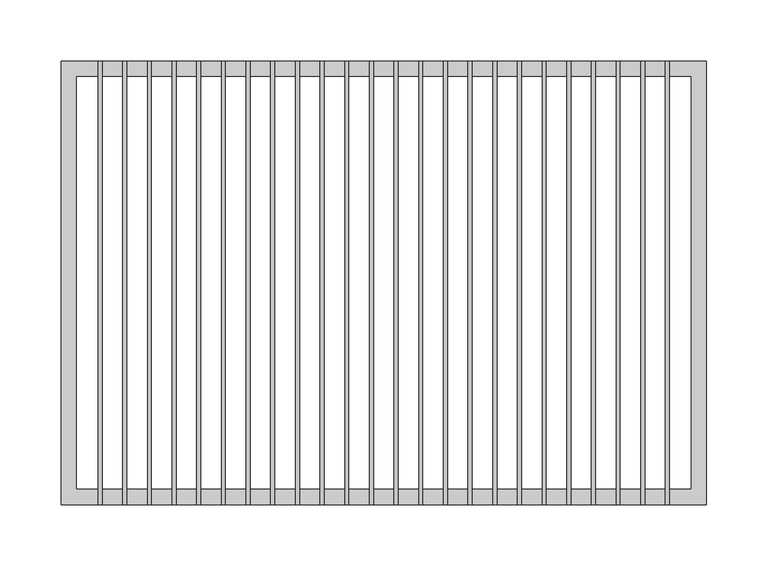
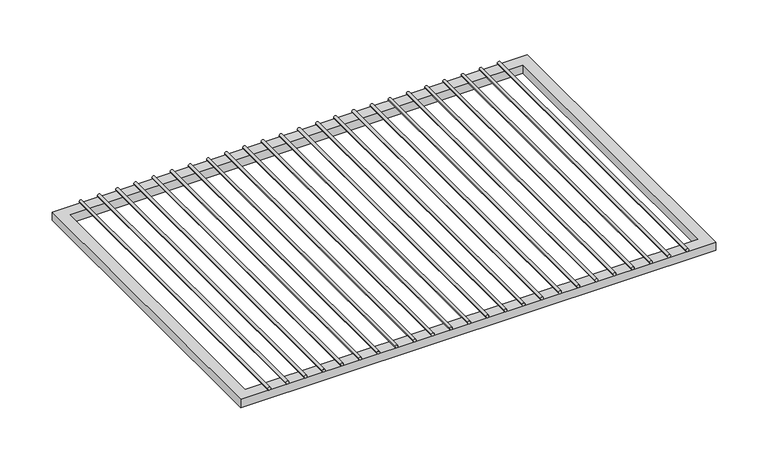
"""IFC4 building model written with IfcOpenShell, lengths in millimetres: furniture geometry, HermanMiller_CoStruc_CO252_CWireShelf : 14D x 20W."""

from ifc_helpers import new_model, si_unit, point, frame, frame_2d, origin, place, context, project, spatial, polyline, circle_curve, trimmed, segment, composite_curve, outline, extrude, source, transform, mapped, element, save


def furniture_6242b930(model_context):
    return source(origin(), model_context, "Body", "SweptSolid", [
        extrude(outline(composite_curve([segment(trimmed(circle_curve(frame_2d((483.39502, -211.6206522)), 1.5875), [point((483.39502, -213.2081522))], [point((483.39502, -210.0331522))], False, "CARTESIAN"), True, "CONTINUOUS"), segment(trimmed(circle_curve(frame_2d((483.39502, -211.6206522)), 1.5875), [point((483.39502, -210.0331522))], [point((483.39502, -213.2081522))], False, "CARTESIAN"), True, "CONTINUOUS")], self_intersect=False)), frame((0.0, -180.975, 0.0), z_axis=(0.0, 1.0, 0.0), x_axis=(0.0, 0.0, 1.0)), (0.0, 0.0, 1.0), 361.95),
        extrude(outline(composite_curve([segment(trimmed(circle_curve(frame_2d((483.39502, -191.4663043)), 1.5875), [point((483.39502, -193.0538043))], [point((483.39502, -189.8788043))], False, "CARTESIAN"), True, "CONTINUOUS"), segment(trimmed(circle_curve(frame_2d((483.39502, -191.4663043)), 1.5875), [point((483.39502, -189.8788043))], [point((483.39502, -193.0538043))], False, "CARTESIAN"), True, "CONTINUOUS")], self_intersect=False)), frame((0.0, -180.975, 0.0), z_axis=(0.0, 1.0, 0.0), x_axis=(0.0, 0.0, 1.0)), (0.0, 0.0, 1.0), 361.95),
        extrude(outline(composite_curve([segment(trimmed(circle_curve(frame_2d((483.39502, -171.3119565)), 1.5875), [point((483.39502, -172.8994565))], [point((483.39502, -169.7244565))], False, "CARTESIAN"), True, "CONTINUOUS"), segment(trimmed(circle_curve(frame_2d((483.39502, -171.3119565)), 1.5875), [point((483.39502, -169.7244565))], [point((483.39502, -172.8994565))], False, "CARTESIAN"), True, "CONTINUOUS")], self_intersect=False)), frame((0.0, -180.975, 0.0), z_axis=(0.0, 1.0, 0.0), x_axis=(0.0, 0.0, 1.0)), (0.0, 0.0, 1.0), 361.95),
        extrude(outline(composite_curve([segment(trimmed(circle_curve(frame_2d((483.39502, -151.1576087)), 1.5875), [point((483.39502, -152.7451087))], [point((483.39502, -149.5701087))], False, "CARTESIAN"), True, "CONTINUOUS"), segment(trimmed(circle_curve(frame_2d((483.39502, -151.1576087)), 1.5875), [point((483.39502, -149.5701087))], [point((483.39502, -152.7451087))], False, "CARTESIAN"), True, "CONTINUOUS")], self_intersect=False)), frame((0.0, -180.975, 0.0), z_axis=(0.0, 1.0, 0.0), x_axis=(0.0, 0.0, 1.0)), (0.0, 0.0, 1.0), 361.95),
        extrude(outline(composite_curve([segment(trimmed(circle_curve(frame_2d((483.39502, -131.0032609)), 1.5875), [point((483.39502, -132.5907609))], [point((483.39502, -129.4157609))], False, "CARTESIAN"), True, "CONTINUOUS"), segment(trimmed(circle_curve(frame_2d((483.39502, -131.0032609)), 1.5875), [point((483.39502, -129.4157609))], [point((483.39502, -132.5907609))], False, "CARTESIAN"), True, "CONTINUOUS")], self_intersect=False)), frame((0.0, -180.975, 0.0), z_axis=(0.0, 1.0, 0.0), x_axis=(0.0, 0.0, 1.0)), (0.0, 0.0, 1.0), 361.95),
        extrude(outline(composite_curve([segment(trimmed(circle_curve(frame_2d((483.39502, -110.848913)), 1.5875), [point((483.39502, -112.436413))], [point((483.39502, -109.261413))], False, "CARTESIAN"), True, "CONTINUOUS"), segment(trimmed(circle_curve(frame_2d((483.39502, -110.848913)), 1.5875), [point((483.39502, -109.261413))], [point((483.39502, -112.436413))], False, "CARTESIAN"), True, "CONTINUOUS")], self_intersect=False)), frame((0.0, -180.975, 0.0), z_axis=(0.0, 1.0, 0.0), x_axis=(0.0, 0.0, 1.0)), (0.0, 0.0, 1.0), 361.95),
        extrude(outline(composite_curve([segment(trimmed(circle_curve(frame_2d((483.39502, -90.6945652)), 1.5875), [point((483.39502, -92.2820652))], [point((483.39502, -89.1070652))], False, "CARTESIAN"), True, "CONTINUOUS"), segment(trimmed(circle_curve(frame_2d((483.39502, -90.6945652)), 1.5875), [point((483.39502, -89.1070652))], [point((483.39502, -92.2820652))], False, "CARTESIAN"), True, "CONTINUOUS")], self_intersect=False)), frame((0.0, -180.975, 0.0), z_axis=(0.0, 1.0, 0.0), x_axis=(0.0, 0.0, 1.0)), (0.0, 0.0, 1.0), 361.95),
        extrude(outline(composite_curve([segment(trimmed(circle_curve(frame_2d((483.39502, -70.5402174)), 1.5875), [point((483.39502, -72.1277174))], [point((483.39502, -68.9527174))], False, "CARTESIAN"), True, "CONTINUOUS"), segment(trimmed(circle_curve(frame_2d((483.39502, -70.5402174)), 1.5875), [point((483.39502, -68.9527174))], [point((483.39502, -72.1277174))], False, "CARTESIAN"), True, "CONTINUOUS")], self_intersect=False)), frame((0.0, -180.975, 0.0), z_axis=(0.0, 1.0, 0.0), x_axis=(0.0, 0.0, 1.0)), (0.0, 0.0, 1.0), 361.95),
        extrude(outline(composite_curve([segment(trimmed(circle_curve(frame_2d((483.39502, -50.3858696)), 1.5875), [point((483.39502, -51.9733696))], [point((483.39502, -48.7983696))], False, "CARTESIAN"), True, "CONTINUOUS"), segment(trimmed(circle_curve(frame_2d((483.39502, -50.3858696)), 1.5875), [point((483.39502, -48.7983696))], [point((483.39502, -51.9733696))], False, "CARTESIAN"), True, "CONTINUOUS")], self_intersect=False)), frame((0.0, -180.975, 0.0), z_axis=(0.0, 1.0, 0.0), x_axis=(0.0, 0.0, 1.0)), (0.0, 0.0, 1.0), 361.95),
        extrude(outline(composite_curve([segment(trimmed(circle_curve(frame_2d((483.39502, -30.2315217)), 1.5875), [point((483.39502, -31.8190217))], [point((483.39502, -28.6440217))], False, "CARTESIAN"), True, "CONTINUOUS"), segment(trimmed(circle_curve(frame_2d((483.39502, -30.2315217)), 1.5875), [point((483.39502, -28.6440217))], [point((483.39502, -31.8190217))], False, "CARTESIAN"), True, "CONTINUOUS")], self_intersect=False)), frame((0.0, -180.975, 0.0), z_axis=(0.0, 1.0, 0.0), x_axis=(0.0, 0.0, 1.0)), (0.0, 0.0, 1.0), 361.95),
        extrude(outline(composite_curve([segment(trimmed(circle_curve(frame_2d((483.39502, -10.0771739)), 1.5875), [point((483.39502, -11.6646739))], [point((483.39502, -8.4896739))], False, "CARTESIAN"), True, "CONTINUOUS"), segment(trimmed(circle_curve(frame_2d((483.39502, -10.0771739)), 1.5875), [point((483.39502, -8.4896739))], [point((483.39502, -11.6646739))], False, "CARTESIAN"), True, "CONTINUOUS")], self_intersect=False)), frame((0.0, -180.975, 0.0), z_axis=(0.0, 1.0, 0.0), x_axis=(0.0, 0.0, 1.0)), (0.0, 0.0, 1.0), 361.95),
        extrude(outline(composite_curve([segment(trimmed(circle_curve(frame_2d((483.39502, 10.0771739)), 1.5875), [point((483.39502, 8.4896739))], [point((483.39502, 11.6646739))], False, "CARTESIAN"), True, "CONTINUOUS"), segment(trimmed(circle_curve(frame_2d((483.39502, 10.0771739)), 1.5875), [point((483.39502, 11.6646739))], [point((483.39502, 8.4896739))], False, "CARTESIAN"), True, "CONTINUOUS")], self_intersect=False)), frame((0.0, -180.975, 0.0), z_axis=(0.0, 1.0, 0.0), x_axis=(0.0, 0.0, 1.0)), (0.0, 0.0, 1.0), 361.95),
        extrude(outline(composite_curve([segment(trimmed(circle_curve(frame_2d((483.39502, 30.2315217)), 1.5875), [point((483.39502, 28.6440217))], [point((483.39502, 31.8190217))], False, "CARTESIAN"), True, "CONTINUOUS"), segment(trimmed(circle_curve(frame_2d((483.39502, 30.2315217)), 1.5875), [point((483.39502, 31.8190217))], [point((483.39502, 28.6440217))], False, "CARTESIAN"), True, "CONTINUOUS")], self_intersect=False)), frame((0.0, -180.975, 0.0), z_axis=(0.0, 1.0, 0.0), x_axis=(0.0, 0.0, 1.0)), (0.0, 0.0, 1.0), 361.95),
        extrude(outline(composite_curve([segment(trimmed(circle_curve(frame_2d((483.39502, 50.3858696)), 1.5875), [point((483.39502, 48.7983696))], [point((483.39502, 51.9733696))], False, "CARTESIAN"), True, "CONTINUOUS"), segment(trimmed(circle_curve(frame_2d((483.39502, 50.3858696)), 1.5875), [point((483.39502, 51.9733696))], [point((483.39502, 48.7983696))], False, "CARTESIAN"), True, "CONTINUOUS")], self_intersect=False)), frame((0.0, -180.975, 0.0), z_axis=(0.0, 1.0, 0.0), x_axis=(0.0, 0.0, 1.0)), (0.0, 0.0, 1.0), 361.95),
        extrude(outline(composite_curve([segment(trimmed(circle_curve(frame_2d((483.39502, 70.5402174)), 1.5875), [point((483.39502, 68.9527174))], [point((483.39502, 72.1277174))], False, "CARTESIAN"), True, "CONTINUOUS"), segment(trimmed(circle_curve(frame_2d((483.39502, 70.5402174)), 1.5875), [point((483.39502, 72.1277174))], [point((483.39502, 68.9527174))], False, "CARTESIAN"), True, "CONTINUOUS")], self_intersect=False)), frame((0.0, -180.975, 0.0), z_axis=(0.0, 1.0, 0.0), x_axis=(0.0, 0.0, 1.0)), (0.0, 0.0, 1.0), 361.95),
        extrude(outline(composite_curve([segment(trimmed(circle_curve(frame_2d((483.39502, 90.6945652)), 1.5875), [point((483.39502, 89.1070652))], [point((483.39502, 92.2820652))], False, "CARTESIAN"), True, "CONTINUOUS"), segment(trimmed(circle_curve(frame_2d((483.39502, 90.6945652)), 1.5875), [point((483.39502, 92.2820652))], [point((483.39502, 89.1070652))], False, "CARTESIAN"), True, "CONTINUOUS")], self_intersect=False)), frame((0.0, -180.975, 0.0), z_axis=(0.0, 1.0, 0.0), x_axis=(0.0, 0.0, 1.0)), (0.0, 0.0, 1.0), 361.95),
        extrude(outline(composite_curve([segment(trimmed(circle_curve(frame_2d((483.39502, 110.848913)), 1.5875), [point((483.39502, 109.261413))], [point((483.39502, 112.436413))], False, "CARTESIAN"), True, "CONTINUOUS"), segment(trimmed(circle_curve(frame_2d((483.39502, 110.848913)), 1.5875), [point((483.39502, 112.436413))], [point((483.39502, 109.261413))], False, "CARTESIAN"), True, "CONTINUOUS")], self_intersect=False)), frame((0.0, -180.975, 0.0), z_axis=(0.0, 1.0, 0.0), x_axis=(0.0, 0.0, 1.0)), (0.0, 0.0, 1.0), 361.95),
        extrude(outline(composite_curve([segment(trimmed(circle_curve(frame_2d((483.39502, 131.0032609)), 1.5875), [point((483.39502, 129.4157609))], [point((483.39502, 132.5907609))], False, "CARTESIAN"), True, "CONTINUOUS"), segment(trimmed(circle_curve(frame_2d((483.39502, 131.0032609)), 1.5875), [point((483.39502, 132.5907609))], [point((483.39502, 129.4157609))], False, "CARTESIAN"), True, "CONTINUOUS")], self_intersect=False)), frame((0.0, -180.975, 0.0), z_axis=(0.0, 1.0, 0.0), x_axis=(0.0, 0.0, 1.0)), (0.0, 0.0, 1.0), 361.95),
        extrude(outline(composite_curve([segment(trimmed(circle_curve(frame_2d((483.39502, 151.1576087)), 1.5875), [point((483.39502, 149.5701087))], [point((483.39502, 152.7451087))], False, "CARTESIAN"), True, "CONTINUOUS"), segment(trimmed(circle_curve(frame_2d((483.39502, 151.1576087)), 1.5875), [point((483.39502, 152.7451087))], [point((483.39502, 149.5701087))], False, "CARTESIAN"), True, "CONTINUOUS")], self_intersect=False)), frame((0.0, -180.975, 0.0), z_axis=(0.0, 1.0, 0.0), x_axis=(0.0, 0.0, 1.0)), (0.0, 0.0, 1.0), 361.95),
        extrude(outline(composite_curve([segment(trimmed(circle_curve(frame_2d((483.39502, 171.3119565)), 1.5875), [point((483.39502, 169.7244565))], [point((483.39502, 172.8994565))], False, "CARTESIAN"), True, "CONTINUOUS"), segment(trimmed(circle_curve(frame_2d((483.39502, 171.3119565)), 1.5875), [point((483.39502, 172.8994565))], [point((483.39502, 169.7244565))], False, "CARTESIAN"), True, "CONTINUOUS")], self_intersect=False)), frame((0.0, -180.975, 0.0), z_axis=(0.0, 1.0, 0.0), x_axis=(0.0, 0.0, 1.0)), (0.0, 0.0, 1.0), 361.95),
        extrude(outline(composite_curve([segment(trimmed(circle_curve(frame_2d((483.39502, 191.4663043)), 1.5875), [point((483.39502, 189.8788043))], [point((483.39502, 193.0538043))], False, "CARTESIAN"), True, "CONTINUOUS"), segment(trimmed(circle_curve(frame_2d((483.39502, 191.4663043)), 1.5875), [point((483.39502, 193.0538043))], [point((483.39502, 189.8788043))], False, "CARTESIAN"), True, "CONTINUOUS")], self_intersect=False)), frame((0.0, -180.975, 0.0), z_axis=(0.0, 1.0, 0.0), x_axis=(0.0, 0.0, 1.0)), (0.0, 0.0, 1.0), 361.95),
        extrude(outline(composite_curve([segment(trimmed(circle_curve(frame_2d((483.39502, 211.6206522)), 1.5875), [point((483.39502, 210.0331522))], [point((483.39502, 213.2081522))], False, "CARTESIAN"), True, "CONTINUOUS"), segment(trimmed(circle_curve(frame_2d((483.39502, 211.6206522)), 1.5875), [point((483.39502, 213.2081522))], [point((483.39502, 210.0331522))], False, "CARTESIAN"), True, "CONTINUOUS")], self_intersect=False)), frame((0.0, -180.975, 0.0), z_axis=(0.0, 1.0, 0.0), x_axis=(0.0, 0.0, 1.0)), (0.0, 0.0, 1.0), 361.95),
        extrude(outline(composite_curve([segment(trimmed(circle_curve(frame_2d((483.39502, -231.775)), 1.5875), [point((483.39502, -233.3625))], [point((483.39502, -230.1875))], False, "CARTESIAN"), True, "CONTINUOUS"), segment(trimmed(circle_curve(frame_2d((483.39502, -231.775)), 1.5875), [point((483.39502, -230.1875))], [point((483.39502, -233.3625))], False, "CARTESIAN"), True, "CONTINUOUS")], self_intersect=False)), frame((0.0, -180.975, 0.0), z_axis=(0.0, 1.0, 0.0), x_axis=(0.0, 0.0, 1.0)), (0.0, 0.0, 1.0), 361.95),
        extrude(outline(composite_curve([segment(trimmed(circle_curve(frame_2d((483.39502, 231.775)), 1.5875), [point((483.39502, 230.1875))], [point((483.39502, 233.3625))], False, "CARTESIAN"), True, "CONTINUOUS"), segment(trimmed(circle_curve(frame_2d((483.39502, 231.775)), 1.5875), [point((483.39502, 233.3625))], [point((483.39502, 230.1875))], False, "CARTESIAN"), True, "CONTINUOUS")], self_intersect=False)), frame((0.0, -180.975, 0.0), z_axis=(0.0, 1.0, 0.0), x_axis=(0.0, 0.0, 1.0)), (0.0, 0.0, 1.0), 361.95),
        extrude(outline(polyline([(-263.525, -180.975), (-263.525, 180.975), (263.525, 180.975), (263.525, -180.975), (-263.525, -180.975)]), holes=[polyline([(-250.825, -168.275), (250.825, -168.275), (250.825, 168.275), (-250.825, 168.275), (-250.825, -168.275)])]), frame((0.0, 0.0, 472.28252), z_axis=(0.0, 0.0, 1.0), x_axis=(1.0, 0.0, 0.0)), (0.0, 0.0, 1.0), 9.525),
    ])


if __name__ == "__main__":
    model = new_model("IFC4")
    model_context = context("Model", 3, world=origin())
    ifc_project = project(units=[si_unit("LENGTHUNIT", "METRE", prefix="MILLI")], contexts=[model_context])
    site = spatial("IfcSite", under=ifc_project)
    building = spatial("IfcBuilding", under=site)
    placement = place(None, origin())
    furniture_shape = furniture_6242b930(model_context)
    element("IfcFurniture", 1, ObjectType="HermanMiller_CoStruc_CO252_CWireShelf : 14D x 20W", at=placement, inside=building, context=model_context, shape_type="MappedRepresentation", body=[
        mapped(furniture_shape, transform((0.0, 0.0, 0.0), x_axis=(1.0, 0.0, 0.0), y_axis=(0.0, 1.0, 0.0), z_axis=(0.0, 0.0, 1.0))),
    ])
    save(model, "model.ifc")
